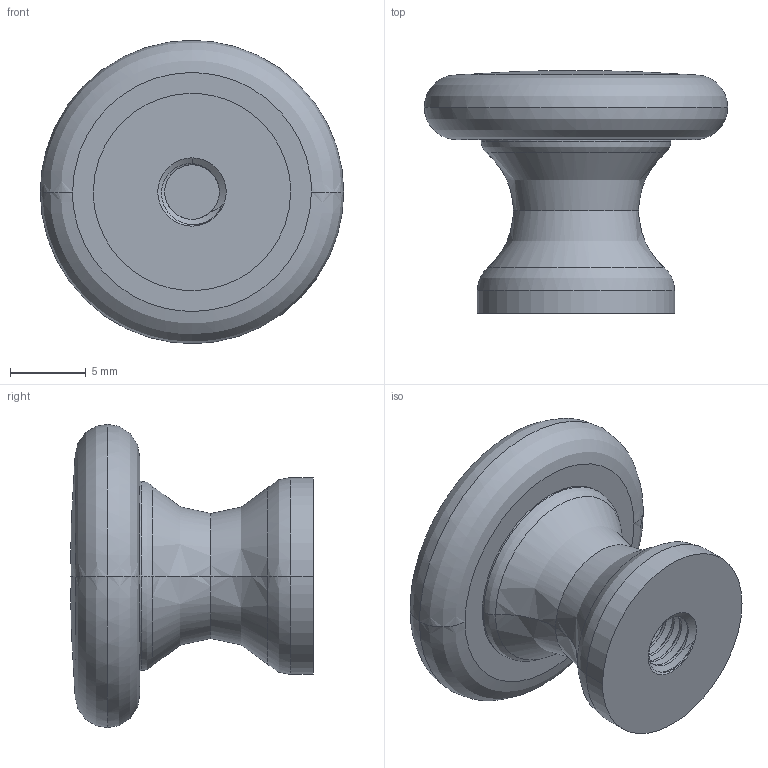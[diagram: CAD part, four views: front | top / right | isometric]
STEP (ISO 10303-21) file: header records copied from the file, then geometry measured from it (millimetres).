
FILE_DESCRIPTION(/* description */ (''),/* implementation_level */ '2;1');
FILE_NAME(/* name */ 'A-508-S-3D',/* time_stamp */ '2023-05-05T07:01:54+08:00',/* author */ (''),/* organization */ (''),/* preprocessor_version */ 'ST-DEVELOPER v16.5',/* originating_system */ 'Rhino 7.28',/* authorisation */ '');
FILE_SCHEMA (('CONFIG_CONTROL_DESIGN'));
Length unit declared in the file: millimetre
Products named in the file (1): Document
Bounding box: 20 x 16 x 20 mm (x, y, z)
Volume: 2199.1 mm3; surface area: 1310.8 mm2
Topology: 1 solids, 1 shells, 42 faces, 103 edges, 63 vertices
Faces by surface type: cylinder 20, bspline 19, plane 3
Entity records: 4757 total; most frequent: CARTESIAN_POINT 4058, ORIENTED_EDGE 202, EDGE_CURVE 101, VERTEX_POINT 63, EDGE_LOOP 44, ADVANCED_FACE 42, FACE_OUTER_BOUND 42, B_SPLINE_CURVE_WITH_KNOTS 42
